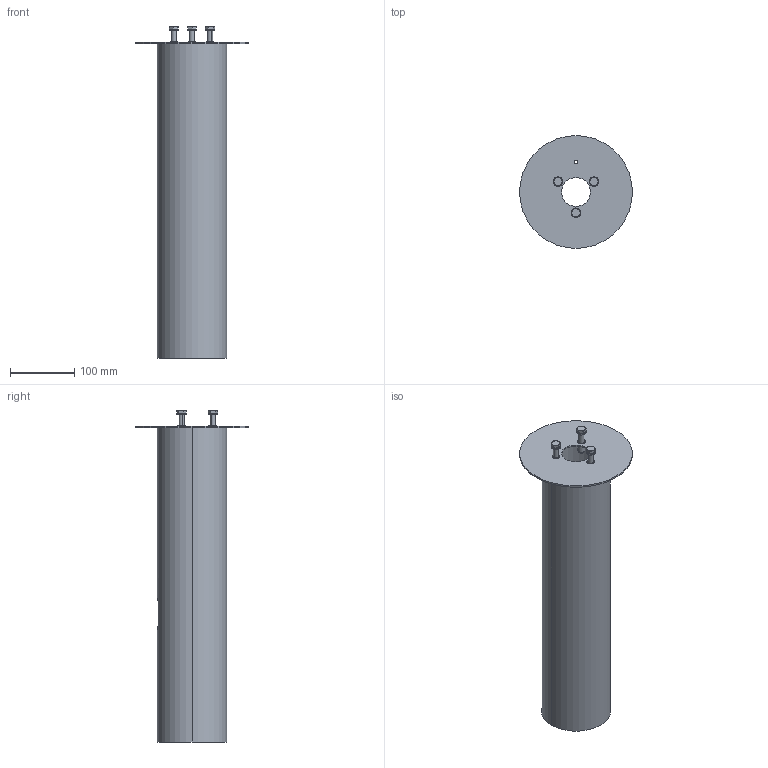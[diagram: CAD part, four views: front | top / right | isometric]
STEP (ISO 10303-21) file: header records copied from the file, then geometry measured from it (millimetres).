
FILE_DESCRIPTION (( 'STEP AP203' ), '1' );
FILE_NAME ('206GA0S10.STEP', '2020-07-10T06:20:55', ( '' ), ( '' ), 'SwSTEP 2.0', 'SolidWorks 2019', '' );
FILE_SCHEMA (( 'CONFIG_CONTROL_DESIGN' ));
Length unit declared in the file: millimetre
Products named in the file (6): 206GA0S10; M8x_M8x40; POD SPR Z 8,1_rs; NN Z FAZ･ M8_rs_3,0; Bl.podstawy_art. 6132; 6133; Podstawa spawana_Podst 206S_490
Assembly tree (11 placements, depth 2):
  206GA0S10
    Podstawa spawana_Podst 206S_490
    NN Z FAZ･ M8_rs_3,0  x3
    M8x_M8x40  x3
    POD SPR Z 8,1_rs  x3
    Bl.podstawy_art. 6132; 6133
Bounding box: 176 x 176 x 517.9 mm (x, y, z)
Volume: 627191.1 mm3; surface area: 378504.7 mm2
Topology: 11 solids, 11 shells, 235 faces, 513 edges, 309 vertices
Faces by surface type: cylinder 85, plane 75, cone 57, torus 18
Entity records: 3746 total; most frequent: CARTESIAN_POINT 753, DIRECTION 512, ORIENTED_EDGE 426, AXIS2_PLACEMENT_3D 216, EDGE_CURVE 213, VERTEX_POINT 131, EDGE_LOOP 114, CIRCLE 107
